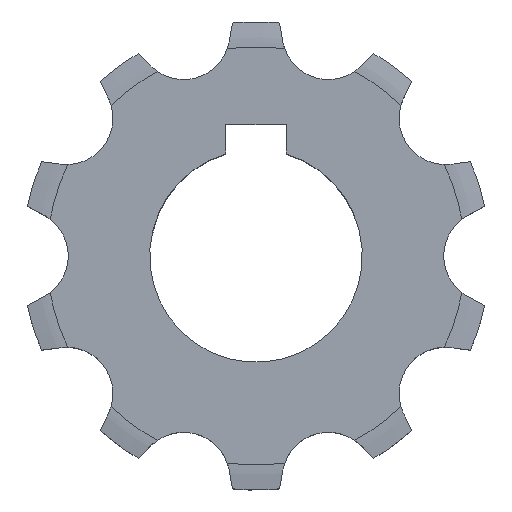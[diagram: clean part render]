
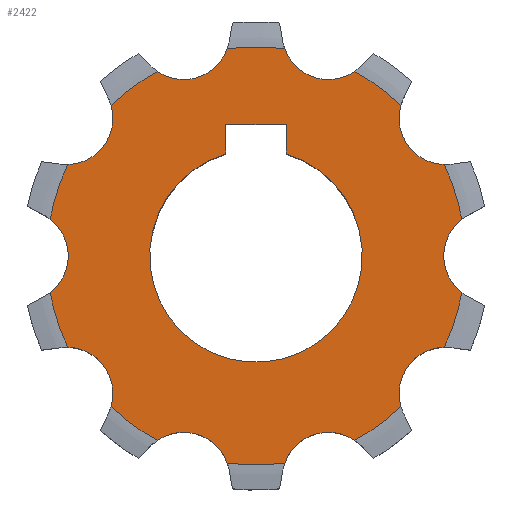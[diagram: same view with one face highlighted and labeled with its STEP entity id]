
A CAD part, top view. The second image highlights one B-rep face of the part: STEP entity #2422.
In plain terms, the highlighted planar face has unit normal (0, 0, 1).
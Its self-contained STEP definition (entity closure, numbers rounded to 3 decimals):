
#33=CARTESIAN_POINT('',(9.525,29.315,5.55));
#34=DIRECTION('',(0.,0.,1.));
#35=DIRECTION('',(-0.942,-0.335,0.));
#36=AXIS2_PLACEMENT_3D('',#33,#34,#35);
#42=CARTESIAN_POINT('',(0.,0.,5.55));
#43=DIRECTION('',(0.,0.,-1.));
#44=DIRECTION('',(0.471,0.882,0.));
#45=AXIS2_PLACEMENT_3D('',#42,#43,#44);
#50=CARTESIAN_POINT('',(24.937,18.118,5.55));
#51=DIRECTION('',(0.,0.,1.));
#52=DIRECTION('',(-0.959,0.283,0.));
#53=AXIS2_PLACEMENT_3D('',#50,#51,#52);
#58=CARTESIAN_POINT('',(0.,0.,5.55));
#59=DIRECTION('',(0.,0.,-1.));
#60=DIRECTION('',(0.9,0.437,0.));
#61=AXIS2_PLACEMENT_3D('',#58,#59,#60);
#66=CARTESIAN_POINT('',(30.824,0.,5.55));
#67=DIRECTION('',(0.,0.,1.));
#68=DIRECTION('',(-0.61,0.793,0.));
#69=AXIS2_PLACEMENT_3D('',#66,#67,#68);
#74=CARTESIAN_POINT('',(0.,0.,5.55));
#75=DIRECTION('',(0.,0.,-1.));
#76=DIRECTION('',(0.984,-0.175,0.));
#77=AXIS2_PLACEMENT_3D('',#74,#75,#76);
#82=CARTESIAN_POINT('',(24.937,-18.118,5.55));
#83=DIRECTION('',(0.,0.,1.));
#84=DIRECTION('',(-0.027,1.,0.));
#85=AXIS2_PLACEMENT_3D('',#82,#83,#84);
#90=CARTESIAN_POINT('',(0.,0.,5.55));
#91=DIRECTION('',(0.,0.,-1.));
#92=DIRECTION('',(0.693,-0.721,0.));
#93=AXIS2_PLACEMENT_3D('',#90,#91,#92);
#98=CARTESIAN_POINT('',(9.525,-29.315,5.55));
#99=DIRECTION('',(0.,0.,1.));
#100=DIRECTION('',(0.565,0.825,0.));
#101=AXIS2_PLACEMENT_3D('',#98,#99,#100);
#106=CARTESIAN_POINT('',(-9.525,-29.315,5.55));
#107=DIRECTION('',(0.,0.,1.));
#108=DIRECTION('',(0.942,0.335,0.));
#109=AXIS2_PLACEMENT_3D('',#106,#107,#108);
#114=CARTESIAN_POINT('',(0.,0.,5.55));
#115=DIRECTION('',(0.,0.,-1.));
#116=DIRECTION('',(-0.471,-0.882,0.));
#117=AXIS2_PLACEMENT_3D('',#114,#115,#116);
#122=CARTESIAN_POINT('',(-24.937,-18.118,5.55));
#123=DIRECTION('',(0.,0.,1.));
#124=DIRECTION('',(0.959,-0.283,0.));
#125=AXIS2_PLACEMENT_3D('',#122,#123,#124);
#130=CARTESIAN_POINT('',(0.,0.,5.55));
#131=DIRECTION('',(0.,0.,-1.));
#132=DIRECTION('',(-0.9,-0.437,0.));
#133=AXIS2_PLACEMENT_3D('',#130,#131,#132);
#138=CARTESIAN_POINT('',(-30.824,0.,5.55));
#139=DIRECTION('',(0.,0.,1.));
#140=DIRECTION('',(0.61,-0.793,0.));
#141=AXIS2_PLACEMENT_3D('',#138,#139,#140);
#146=CARTESIAN_POINT('',(0.,0.,5.55));
#147=DIRECTION('',(0.,0.,-1.));
#148=DIRECTION('',(-0.984,0.175,0.));
#149=AXIS2_PLACEMENT_3D('',#146,#147,#148);
#154=CARTESIAN_POINT('',(-24.937,18.118,5.55));
#155=DIRECTION('',(0.,0.,1.));
#156=DIRECTION('',(0.027,-1.,0.));
#157=AXIS2_PLACEMENT_3D('',#154,#155,#156);
#162=CARTESIAN_POINT('',(0.,0.,5.55));
#163=DIRECTION('',(0.,0.,-1.));
#164=DIRECTION('',(-0.693,0.721,0.));
#165=AXIS2_PLACEMENT_3D('',#162,#163,#164);
#170=CARTESIAN_POINT('',(-9.525,29.315,5.55));
#171=DIRECTION('',(0.,0.,1.));
#172=DIRECTION('',(-0.565,-0.825,0.));
#173=AXIS2_PLACEMENT_3D('',#170,#171,#172);
#178=DIRECTION('',(0.,1.,0.));
#179=VECTOR('',#178,3.884);
#180=CARTESIAN_POINT('',(4.,13.416,5.55));
#181=LINE('',#180,#179);
#185=DIRECTION('',(-1.,0.,0.));
#186=VECTOR('',#185,8.);
#187=CARTESIAN_POINT('',(4.,17.3,5.55));
#188=LINE('',#187,#186);
#192=DIRECTION('',(0.,-1.,0.));
#193=VECTOR('',#192,3.884);
#194=CARTESIAN_POINT('',(-4.,17.3,5.55));
#195=LINE('',#194,#193);
#231=CARTESIAN_POINT('',(0.,0.,5.55));
#232=DIRECTION('',(0.,0.,1.));
#233=DIRECTION('',(0.137,0.991,0.));
#234=AXIS2_PLACEMENT_3D('',#231,#232,#233);
#255=CARTESIAN_POINT('',(0.,0.,5.55));
#256=DIRECTION('',(0.,0.,1.));
#257=DIRECTION('',(-0.137,-0.991,0.));
#258=AXIS2_PLACEMENT_3D('',#255,#256,#257);
#1190=CARTESIAN_POINT('',(0.,0.,5.55));
#1191=DIRECTION('',(0.,0.,-1.));
#1192=DIRECTION('',(0.286,0.958,0.));
#1193=AXIS2_PLACEMENT_3D('',#1190,#1191,#1192);
#1384=CARTESIAN_POINT('',(3.782,27.273,5.55));
#1800=CARTESIAN_POINT('',(-3.782,-27.273,5.55));
#2107=CARTESIAN_POINT('',(12.971,24.287,5.55));
#2108=CARTESIAN_POINT('',(19.09,19.841,5.55));
#2109=VERTEX_POINT('',#2107);
#2110=VERTEX_POINT('',#2108);
#2111=CARTESIAN_POINT('',(24.769,12.025,5.55));
#2112=CARTESIAN_POINT('',(27.107,4.831,5.55));
#2113=VERTEX_POINT('',#2111);
#2114=VERTEX_POINT('',#2112);
#2115=CARTESIAN_POINT('',(27.107,-4.831,5.55));
#2116=CARTESIAN_POINT('',(24.769,-12.025,5.55));
#2117=VERTEX_POINT('',#2115);
#2118=VERTEX_POINT('',#2116);
#2119=CARTESIAN_POINT('',(-12.971,-24.287,5.55));
#2120=CARTESIAN_POINT('',(-19.09,-19.841,5.55));
#2121=VERTEX_POINT('',#2119);
#2122=VERTEX_POINT('',#2120);
#2123=CARTESIAN_POINT('',(-24.769,-12.025,5.55));
#2124=CARTESIAN_POINT('',(-27.107,-4.831,5.55));
#2125=VERTEX_POINT('',#2123);
#2126=VERTEX_POINT('',#2124);
#2127=CARTESIAN_POINT('',(-27.107,4.831,5.55));
#2128=CARTESIAN_POINT('',(-24.769,12.025,5.55));
#2129=VERTEX_POINT('',#2127);
#2130=VERTEX_POINT('',#2128);
#2156=VERTEX_POINT('',#1384);
#2172=VERTEX_POINT('',#1800);
#2183=CARTESIAN_POINT('',(19.09,-19.841,5.55));
#2184=VERTEX_POINT('',#2183);
#2187=CARTESIAN_POINT('',(12.971,-24.287,5.55));
#2188=CARTESIAN_POINT('',(3.782,-27.273,5.55));
#2189=VERTEX_POINT('',#2187);
#2190=VERTEX_POINT('',#2188);
#2211=CARTESIAN_POINT('',(-19.09,19.841,5.55));
#2212=CARTESIAN_POINT('',(-12.971,24.287,5.55));
#2213=VERTEX_POINT('',#2211);
#2214=VERTEX_POINT('',#2212);
#2231=CARTESIAN_POINT('',(-3.782,27.273,5.55));
#2232=VERTEX_POINT('',#2231);
#2327=CARTESIAN_POINT('',(4.,13.416,5.55));
#2328=VERTEX_POINT('',#2327);
#2329=CARTESIAN_POINT('',(-4.,13.416,5.55));
#2330=VERTEX_POINT('',#2329);
#2331=CARTESIAN_POINT('',(4.,17.3,5.55));
#2332=VERTEX_POINT('',#2331);
#2333=CARTESIAN_POINT('',(-4.,17.3,5.55));
#2334=VERTEX_POINT('',#2333);
#2365=CARTESIAN_POINT('',(0.,0.,5.55));
#2366=DIRECTION('',(0.,0.,1.));
#2367=DIRECTION('',(1.,0.,0.));
#2368=AXIS2_PLACEMENT_3D('',#2365,#2366,#2367);
#2369=PLANE('',#2368);
#2371=ORIENTED_EDGE('',*,*,#2370,.F.);
#2373=ORIENTED_EDGE('',*,*,#2372,.T.);
#2375=ORIENTED_EDGE('',*,*,#2374,.T.);
#2377=ORIENTED_EDGE('',*,*,#2376,.T.);
#2379=ORIENTED_EDGE('',*,*,#2378,.T.);
#2381=ORIENTED_EDGE('',*,*,#2380,.T.);
#2383=ORIENTED_EDGE('',*,*,#2382,.T.);
#2385=ORIENTED_EDGE('',*,*,#2384,.T.);
#2387=ORIENTED_EDGE('',*,*,#2386,.T.);
#2389=ORIENTED_EDGE('',*,*,#2388,.T.);
#2391=ORIENTED_EDGE('',*,*,#2390,.F.);
#2393=ORIENTED_EDGE('',*,*,#2392,.T.);
#2395=ORIENTED_EDGE('',*,*,#2394,.T.);
#2397=ORIENTED_EDGE('',*,*,#2396,.T.);
#2399=ORIENTED_EDGE('',*,*,#2398,.T.);
#2401=ORIENTED_EDGE('',*,*,#2400,.T.);
#2403=ORIENTED_EDGE('',*,*,#2402,.T.);
#2405=ORIENTED_EDGE('',*,*,#2404,.T.);
#2407=ORIENTED_EDGE('',*,*,#2406,.T.);
#2409=ORIENTED_EDGE('',*,*,#2408,.T.);
#2410=EDGE_LOOP('',(#2371,#2373,#2375,#2377,#2379,#2381,#2383,#2385,#2387,#2389,
#2391,#2393,#2395,#2397,#2399,#2401,#2403,#2405,#2407,#2409));
#2411=FACE_OUTER_BOUND('',#2410,.F.);
#2413=ORIENTED_EDGE('',*,*,#2412,.T.);
#2415=ORIENTED_EDGE('',*,*,#2414,.T.);
#2417=ORIENTED_EDGE('',*,*,#2416,.T.);
#2419=ORIENTED_EDGE('',*,*,#2418,.F.);
#2420=EDGE_LOOP('',(#2413,#2415,#2417,#2419));
#2421=FACE_BOUND('',#2420,.F.);
#2422=ADVANCED_FACE('',(#2411,#2421),#2369,.T.);
#37=CIRCLE('',#36,6.095);
#46=CIRCLE('',#45,27.534);
#54=CIRCLE('',#53,6.095);
#62=CIRCLE('',#61,27.534);
#70=CIRCLE('',#69,6.095);
#78=CIRCLE('',#77,27.534);
#86=CIRCLE('',#85,6.095);
#94=CIRCLE('',#93,27.534);
#102=CIRCLE('',#101,6.095);
#110=CIRCLE('',#109,6.095);
#118=CIRCLE('',#117,27.534);
#126=CIRCLE('',#125,6.095);
#134=CIRCLE('',#133,27.534);
#142=CIRCLE('',#141,6.095);
#150=CIRCLE('',#149,27.534);
#158=CIRCLE('',#157,6.095);
#166=CIRCLE('',#165,27.534);
#174=CIRCLE('',#173,6.095);
#235=CIRCLE('',#234,27.534);
#259=CIRCLE('',#258,27.534);
#1194=CIRCLE('',#1193,14.);
#2370=EDGE_CURVE('',#2156,#2232,#235,.T.);
#2372=EDGE_CURVE('',#2156,#2109,#37,.T.);
#2374=EDGE_CURVE('',#2109,#2110,#46,.T.);
#2376=EDGE_CURVE('',#2110,#2113,#54,.T.);
#2378=EDGE_CURVE('',#2113,#2114,#62,.T.);
#2380=EDGE_CURVE('',#2114,#2117,#70,.T.);
#2382=EDGE_CURVE('',#2117,#2118,#78,.T.);
#2384=EDGE_CURVE('',#2118,#2184,#86,.T.);
#2386=EDGE_CURVE('',#2184,#2189,#94,.T.);
#2388=EDGE_CURVE('',#2189,#2190,#102,.T.);
#2390=EDGE_CURVE('',#2172,#2190,#259,.T.);
#2392=EDGE_CURVE('',#2172,#2121,#110,.T.);
#2394=EDGE_CURVE('',#2121,#2122,#118,.T.);
#2396=EDGE_CURVE('',#2122,#2125,#126,.T.);
#2398=EDGE_CURVE('',#2125,#2126,#134,.T.);
#2400=EDGE_CURVE('',#2126,#2129,#142,.T.);
#2402=EDGE_CURVE('',#2129,#2130,#150,.T.);
#2404=EDGE_CURVE('',#2130,#2213,#158,.T.);
#2406=EDGE_CURVE('',#2213,#2214,#166,.T.);
#2408=EDGE_CURVE('',#2214,#2232,#174,.T.);
#2412=EDGE_CURVE('',#2328,#2332,#181,.T.);
#2414=EDGE_CURVE('',#2332,#2334,#188,.T.);
#2416=EDGE_CURVE('',#2334,#2330,#195,.T.);
#2418=EDGE_CURVE('',#2328,#2330,#1194,.T.);
